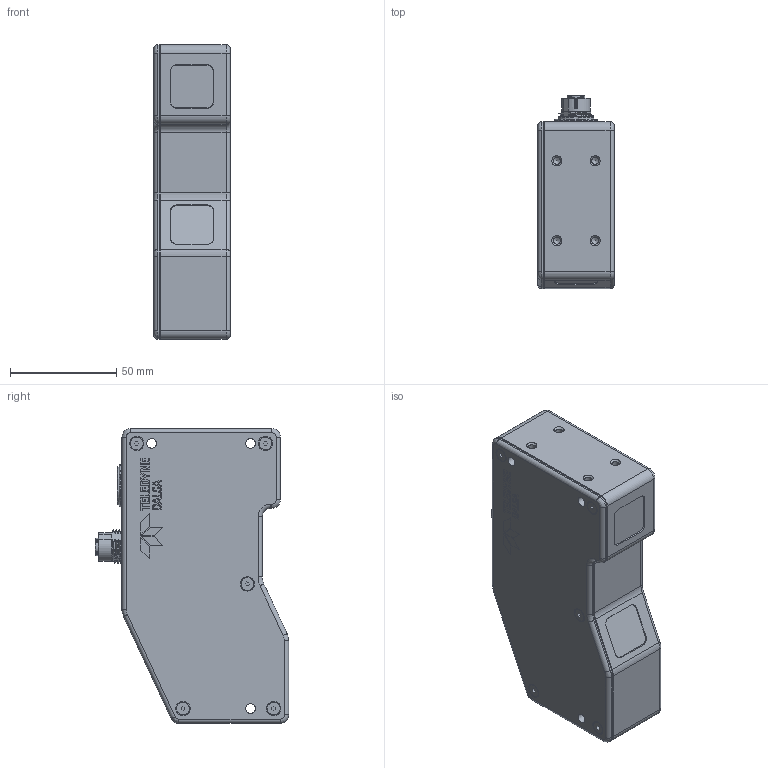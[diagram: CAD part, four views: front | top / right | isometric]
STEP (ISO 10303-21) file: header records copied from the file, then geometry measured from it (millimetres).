
FILE_DESCRIPTION(/* description */ (''),/* implementation_level */ '2;1');
FILE_NAME(/* name */ 'C:\_01_DME_Vault\_01_DME_Vault_Projects\EUCLID\CAMERA ASSEMBLIES\EUCLID-DOF40-120-USER-REFERENCE.stp',/* time_stamp */ '2019-01-07T10:39:04-05:00',/* author */ ('echenard'),/* organization */ (''),/* preprocessor_version */ 'ST-DEVELOPER v17',/* originating_system */ 'Autodesk Inventor 2018',/* authorisation */ '');
FILE_SCHEMA (('CONFIG_CONTROL_DESIGN'));
Products named in the file (1): EUCLID-DOF40-120-USER-REFERENCE
Bounding box: 36 x 90.85 x 138.63 mm (x, y, z)
Volume: 338293 mm3; surface area: 40795.5 mm2
Topology: 1 solids, 4 shells, 1306 faces, 3473 edges, 2318 vertices
Faces by surface type: plane 703, cylinder 291, bspline 171, cone 74, torus 65, sphere 2
Full cylindrical faces by diameter (mm): 0.57 x24, 0.7 x8, 1.05 x24, 1.24 x8, 2.8 x2, 2.92 x2, 3 x5, 3.2 x5, 3.242 x8, 3.3 x2, 4.5 x3, 6 x5, 8.25 x2, 10.9 x2, 12.2 x1, 14.6 x1, 15.1 x1, 15.188 x1, 20 x1, 22.5 x2
Entity records: 57763 total; most frequent: CARTESIAN_POINT 24539, ORIENTED_EDGE 6928, DIRECTION 6144, EDGE_CURVE 3464, VERTEX_POINT 2318, AXIS2_PLACEMENT_3D 2087, LINE 1970, VECTOR 1970
